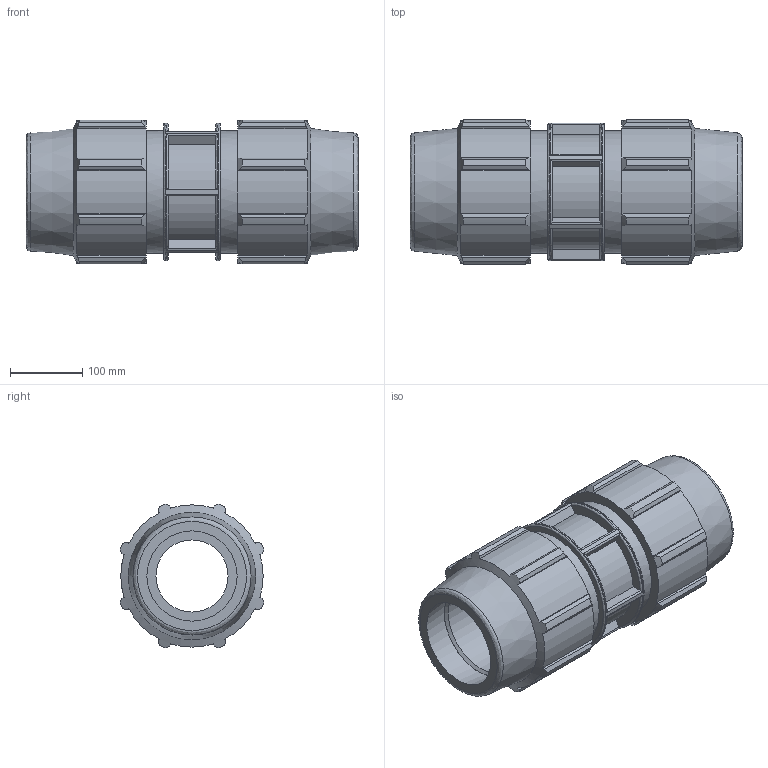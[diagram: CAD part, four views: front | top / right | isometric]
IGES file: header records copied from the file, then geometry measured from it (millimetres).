
Global section: file name: 070100125_180100125_0701061250A.ipt; native system: Autodesk Inventor 2015; preprocessor: unknown; author: KIM; date: 20170606.105925; units: millimetre
Bounding box: 460 x 199.48 x 199.48 mm (x, y, z)
Volume: 6420803.6 mm3; surface area: 546720.2 mm2
Topology: 1 solids, 1 shells, 194 faces, 549 edges, 370 vertices
Faces by surface type: plane 98, cylinder 53, revolution 23, cone 20
Full cylindrical faces by diameter (mm): 169.6 x2, 190.8 x1
